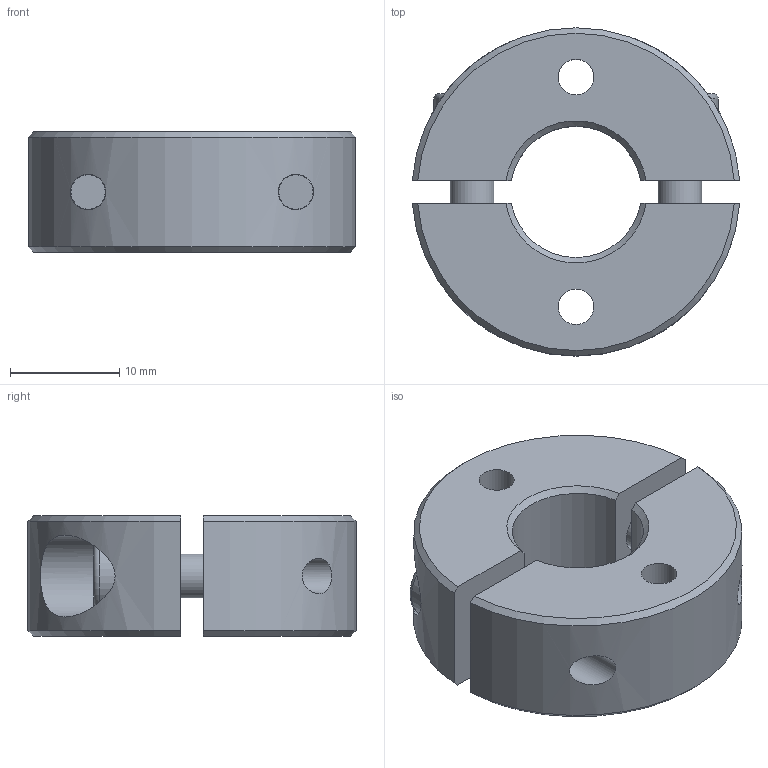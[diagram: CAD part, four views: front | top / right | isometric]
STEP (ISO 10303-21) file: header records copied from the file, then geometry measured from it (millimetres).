
FILE_DESCRIPTION( ( 'STEP AP203' ), '1' );
FILE_NAME( 'C:/Temp/Ganter_Step_05_03_2020/data/3_2/gn7072_2/Split Stainless Steel-Set collar GN 7072.2-30-B12-NI-C.stp', '2020-03-13T05:41:03', ( 'License CC BY-ND 4.0' ), ( 'CADENAS' ), ' ', 'PARTsolutions', ' ' );
FILE_SCHEMA( ( 'CONFIG_CONTROL_DESIGN' ) );
Length unit declared in the file: millimetre
Products named in the file (1): _Split Stainless Steel-Set collar GN 7072.2-30-B12-NI-C
Bounding box: 29.93 x 30 x 11 mm (x, y, z)
Volume: 5531.8 mm3; surface area: 3797.5 mm2
Topology: 1 solids, 1 shells, 58 faces, 136 edges, 92 vertices
Faces by surface type: plane 30, cylinder 16, cone 10, torus 2
Full cylindrical faces by diameter (mm): 3.242 x4, 4 x2, 4.4 x2, 7 x2, 7.5 x2
Entity records: 1808 total; most frequent: CARTESIAN_POINT 527, DIRECTION 250, ORIENTED_EDGE 224, EDGE_CURVE 112, AXIS2_PLACEMENT_3D 99, EDGE_LOOP 92, VERTEX_POINT 84, FACE_OUTER_BOUND 72
